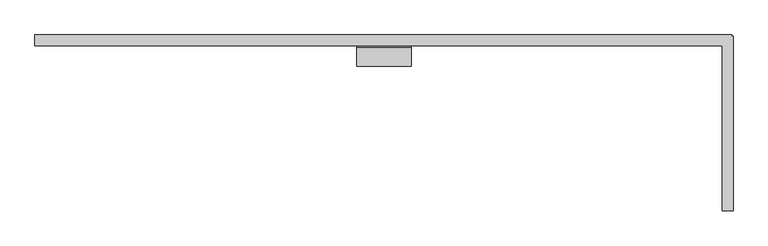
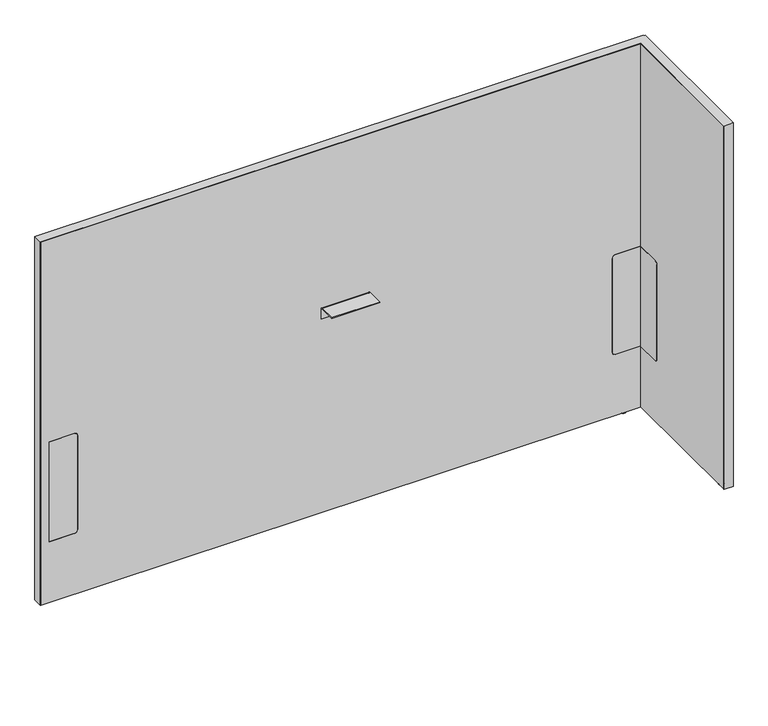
"""IFC4 building model written with IfcOpenShell, lengths in millimetres: furniture geometry, Steelcase - Answer Solution - Boundary Screen - L Return - Single Sided : 48H x 75W."""

from ifc_helpers import new_model, si_unit, point, frame, frame_2d, origin, place, context, project, spatial, polyline, circle_curve, ellipse_curve, trimmed, segment, composite_curve, outline, extrude, faceted_brep, source, transform, mapped, element, save
from ifc_brep_helpers import plane_surface, cylinder_surface, revolved_surface, advanced_brep


def furniture_c0c6b94c(model_context):
    return source(origin(), model_context, "Body", "SolidModel", [
        extrude(outline(composite_curve([segment(polyline([(-109.3501471, 549.6162029), (-29.0550397, 549.6162029), (-29.0550397, 213.7762137), (-109.3501471, 213.7762137)]), True, "CONTINUOUS"), segment(trimmed(circle_curve(frame_2d((-109.3501471, 223.9362137)), 10.16), [point((-109.3501471, 213.7762137))], [point((-119.5101471, 223.9362137))], False, "CARTESIAN"), True, "CONTINUOUS"), segment(polyline([(-119.5101471, 223.9362137), (-119.5101471, 539.4562029)]), True, "CONTINUOUS"), segment(trimmed(circle_curve(frame_2d((-109.3501471, 539.4562029)), 10.16), [point((-119.5101471, 539.4562029))], [point((-109.3501471, 549.6162029))], False, "CARTESIAN"), True, "CONTINUOUS")], self_intersect=False)), frame((2134.8191891, 0.0, 0.0), z_axis=(1.0, 0.0, 0.0), x_axis=(0.0, 1.0, 0.0)), (0.0, 0.0, 1.0), 0.6401544),
        advanced_brep(
        [(2149.6672074, -448.0136072, 0.0), (2156.6216144, -448.0136072, 0.0), (2142.7128003, -448.0136072, 0.0), (2158.0762685, -448.0136072, 1.2700001), (2141.2581463, -448.0136072, 1.2700001), (2158.0762685, -448.0136072, 2.9673238), (2141.2581463, -448.0136072, 2.9673238), (2159.0427877, -448.0136072, 2.9673238), (2140.291627, -448.0136072, 2.9673238), (2159.0427877, -448.0136072, 9.9059849), (2140.291627, -448.0136072, 9.9059849), (2149.6672074, -448.0136072, 9.9059849)],
        [
            (0, 1),
            (1, 2, circle_curve(frame((2149.6672074, -448.0136072, 0.0), z_axis=(0.0, 0.0, -1.0), x_axis=(1.0, 0.0, 0.0)), 6.9544071)),
            (2, 0),
            (2, 1, circle_curve(frame((2149.6672074, -448.0136072, 0.0), z_axis=(0.0, 0.0, -1.0), x_axis=(1.0, 0.0, 0.0)), 6.9544071)),
            (1, 3, circle_curve(frame((2156.7945484, -448.0136072, 1.2700001), z_axis=(0.0, -1.0, 0.0), x_axis=(0.0, 0.0, 1.0)), 1.2817201)),
            (3, 4, circle_curve(frame((2149.6672074, -448.0136072, 1.2700001), z_axis=(0.0, 0.0, -1.0), x_axis=(1.0, 0.0, 0.0)), 8.4090611)),
            (4, 2, circle_curve(frame((2142.5398663, -448.0136072, 1.2700001), z_axis=(0.0, -1.0, 0.0), x_axis=(0.0, 0.0, 1.0)), 1.2817201)),
            (4, 3, circle_curve(frame((2149.6672074, -448.0136072, 1.2700001), z_axis=(0.0, 0.0, -1.0), x_axis=(1.0, 0.0, 0.0)), 8.4090611)),
            (3, 5),
            (5, 6, circle_curve(frame((2149.6672074, -448.0136072, 2.9673238), z_axis=(0.0, 0.0, -1.0), x_axis=(1.0, 0.0, 0.0)), 8.4090611)),
            (6, 4),
            (6, 5, circle_curve(frame((2149.6672074, -448.0136072, 2.9673238), z_axis=(0.0, 0.0, -1.0), x_axis=(1.0, 0.0, 0.0)), 8.4090611)),
            (5, 7),
            (7, 8, circle_curve(frame((2149.6672074, -448.0136072, 2.9673238), z_axis=(0.0, 0.0, -1.0), x_axis=(1.0, 0.0, 0.0)), 9.3755804)),
            (8, 6),
            (8, 7, circle_curve(frame((2149.6672074, -448.0136072, 2.9673238), z_axis=(0.0, 0.0, -1.0), x_axis=(1.0, 0.0, 0.0)), 9.3755804)),
            (7, 9),
            (9, 10, circle_curve(frame((2149.6672074, -448.0136072, 9.9059849), z_axis=(0.0, 0.0, -1.0), x_axis=(1.0, 0.0, 0.0)), 9.3755804)),
            (10, 8),
            (10, 9, circle_curve(frame((2149.6672074, -448.0136072, 9.9059849), z_axis=(0.0, 0.0, -1.0), x_axis=(1.0, 0.0, 0.0)), 9.3755804)),
            (9, 11),
            (11, 10),
        ],
        [
            plane_surface(frame((2149.6672074, -448.0136072, 0.0), z_axis=(0.0, 0.0, -1.0), x_axis=(1.0, 0.0, 0.0))),
            revolved_surface(trimmed(ellipse_curve(frame((2156.7945484, -448.0136072, 1.2700001), z_axis=(0.0, 1.0, 0.0), x_axis=(0.0, 0.0, 1.0)), 1.2817201, 1.2817201), [point((2158.0762685, -448.0136072, 1.2700001))], [point((2156.6216144, -448.0136072, 0.0))], True, "CARTESIAN"), (2149.6672074, -448.0136072, 9.9059849), (0.0, 0.0, -1.0)),
            cylinder_surface(frame((2149.6672074, -448.0136072, 9.9059849), z_axis=(0.0, 0.0, -1.0), x_axis=(1.0, 0.0, 0.0)), 8.4090611),
            plane_surface(frame((2149.6672074, -448.0136072, 2.9673238), z_axis=(0.0, 0.0, -1.0), x_axis=(1.0, 0.0, 0.0))),
            cylinder_surface(frame((2149.6672074, -448.0136072, 9.9059849), z_axis=(0.0, 0.0, -1.0), x_axis=(1.0, 0.0, 0.0)), 9.3755804),
            plane_surface(frame((2149.6672074, -448.0136072, 9.9059849), z_axis=(0.0, 0.0, 1.0), x_axis=(1.0, 0.0, 0.0))),
        ],
        [
            (0, [[1, 2, 3]]),
            (0, [[-3, 4, -1]]),
            (1, [[-2, 5, 6, 7]]),
            (1, [[-4, -7, 8, -5]]),
            (2, [[-6, 9, 10, 11]]),
            (2, [[-8, -11, 12, -9]]),
            (3, [[-10, 13, 14, 15]]),
            (3, [[-12, -15, 16, -13]]),
            (4, [[-14, 17, 18, 19]]),
            (4, [[-16, -19, 20, -17]]),
            (5, [[-18, 21, 22]]),
            (5, [[-20, -22, -21]]),
        ],
    ),
        faceted_brep([(2161.2531179, 0.0, 1230.122), (2161.2531179, 0.0, 9.9059849), (2160.2621491, 0.0, 9.9059849), (2160.2621491, 0.0, 1229.142118), (230.8097779, 0.0, 1229.142118), (230.8097779, 0.0, 9.9059849), (229.8191891, 0.0, 9.9059849), (229.8191891, 0.0, 1230.122), (229.8191891, -29.6898332, 1230.122), (229.8191891, -29.6898332, 9.9059849), (230.8097779, -29.6898332, 9.9059849), (230.8097779, -29.6898332, 1229.142118), (2134.8191891, -29.6898332, 1229.142118), (2134.8191891, -29.6898332, 1230.122), (2160.2621491, -29.6898332, 1229.142118), (2160.2621491, -29.6898332, 9.9059849), (2161.2531179, -29.6898332, 9.9059849), (2161.2531179, -29.6898332, 1229.142118), (2161.2531179, -3.2625916, 1230.122), (2161.2531179, -3.2625916, 9.9059849), (2161.2531179, -4.252647, 9.9059849), (2161.2531179, -4.252647, 1229.142118), (2164.5152256, -3.2625916, 9.9059849), (2164.5152256, -4.252647, 9.9059849), (2160.2621491, -4.252647, 9.9059849), (2134.8191891, -4.252647, 9.9059849), (2134.8191891, -3.2625916, 9.9059849), (2160.2621491, -3.2625916, 9.9059849), (2134.8191891, -486.8898332, 1230.122), (2164.5152256, -486.8898332, 1230.122), (2164.5152256, -3.2625916, 1230.122), (2160.2621491, -3.2625916, 1229.142118), (2160.2621491, -4.252647, 1229.142118), (2134.8191891, -3.2625916, 1229.142118), (2134.8191891, -4.252647, 1229.142118), (2164.5152256, -4.252647, 1229.142118), (2164.5152256, -485.899196, 1229.142118), (2134.8191891, -485.899196, 1229.142118), (2134.8191891, -485.899196, 9.9059849), (2134.8191891, -486.8898332, 9.9059849), (2164.5152256, -486.8898332, 9.9059849), (2164.5152256, -485.899196, 9.9059849)], [[[0, 1, 2, 3, 4, 5, 6, 7]], [[8, 9, 10, 11, 12, 13]], [[14, 15, 16, 17]], [[1, 0, 18, 19]], [[17, 16, 20, 21]], [[2, 1, 19, 22, 23, 20, 16, 15, 24, 25, 26, 27]], [[7, 6, 9, 8]], [[0, 7, 8, 13, 28, 29, 30, 18]], [[3, 2, 27, 31]], [[15, 14, 32, 24]], [[4, 3, 31, 33, 34, 32, 14, 17, 21, 35, 36, 37, 12, 11]], [[5, 4, 11, 10]], [[6, 5, 10, 9]], [[26, 25, 34, 33]], [[37, 38, 39, 28, 13, 12]], [[29, 40, 41, 36, 35, 23, 22, 30]], [[27, 26, 33, 31]], [[30, 22, 19, 18]], [[34, 25, 24, 32]], [[23, 35, 21, 20]], [[38, 37, 36, 41]], [[39, 38, 41, 40]], [[28, 39, 40, 29]]]),
        extrude(outline(composite_curve([segment(polyline([(-86.8398151, 696.4680019), (-86.8398151, 698.5), (-34.9450855, 698.5)]), True, "CONTINUOUS"), segment(trimmed(circle_curve(frame_2d((-34.9450855, 693.2447477)), 5.2552523), [point((-34.9450855, 698.5))], [point((-29.6898332, 693.2447477))], False, "CARTESIAN"), True, "CONTINUOUS"), segment(polyline([(-29.6898332, 693.2447477), (-29.6898332, 660.4), (-31.7218162, 660.4), (-31.7218162, 693.0058743)]), True, "CONTINUOUS"), segment(trimmed(circle_curve(frame_2d((-35.1839438, 693.0058743)), 3.4621276), [point((-31.7218162, 693.0058743))], [point((-35.1839438, 696.4680019))], True, "CARTESIAN"), True, "CONTINUOUS"), segment(polyline([(-35.1839438, 696.4680019), (-86.8398151, 696.4680019)]), True, "CONTINUOUS")], self_intersect=False)), frame((1120.9685899, 0.0, 0.0), z_axis=(1.0, 0.0, 0.0), x_axis=(0.0, 1.0, 0.0)), (0.0, 0.0, 1.0), 152.4000969),
        advanced_brep(
        [(2087.3246853, -23.7588726, 9.9059849), (2087.3246853, -5.9309607, 9.9059849), (2087.3246853, -14.8449166, 9.9059849), (2087.3246853, -23.7588726, 2.9673238), (2087.3246853, -5.9309607, 2.9673238), (2087.3246853, -22.7915354, 2.9673238), (2087.3246853, -6.8982978, 2.9673238), (2087.3246853, -22.7915354, 1.6569081), (2087.3246853, -6.8982978, 1.6569081), (2087.3246853, -21.1346274, 0.0), (2087.3246853, -8.5552059, 0.0), (2087.3246853, -14.8449166, 0.0)],
        [
            (0, 1, circle_curve(frame((2087.3246853, -14.8449166, 9.9059849), z_axis=(0.0, 0.0, 1.0), x_axis=(0.0, 1.0, 0.0)), 8.913956)),
            (1, 2),
            (2, 0),
            (1, 0, circle_curve(frame((2087.3246853, -14.8449166, 9.9059849), z_axis=(0.0, 0.0, 1.0), x_axis=(0.0, 1.0, 0.0)), 8.913956)),
            (3, 4, circle_curve(frame((2087.3246853, -14.8449166, 2.9673238), z_axis=(0.0, 0.0, 1.0), x_axis=(0.0, 1.0, 0.0)), 8.913956)),
            (4, 1),
            (0, 3),
            (4, 3, circle_curve(frame((2087.3246853, -14.8449166, 2.9673238), z_axis=(0.0, 0.0, 1.0), x_axis=(0.0, 1.0, 0.0)), 8.913956)),
            (5, 6, circle_curve(frame((2087.3246853, -14.8449166, 2.9673238), z_axis=(0.0, 0.0, 1.0), x_axis=(0.0, 1.0, 0.0)), 7.9466188)),
            (6, 4),
            (3, 5),
            (6, 5, circle_curve(frame((2087.3246853, -14.8449166, 2.9673238), z_axis=(0.0, 0.0, 1.0), x_axis=(0.0, 1.0, 0.0)), 7.9466188)),
            (7, 8, circle_curve(frame((2087.3246853, -14.8449166, 1.6569081), z_axis=(0.0, 0.0, 1.0), x_axis=(0.0, 1.0, 0.0)), 7.9466188)),
            (8, 6),
            (5, 7),
            (8, 7, circle_curve(frame((2087.3246853, -14.8449166, 1.6569081), z_axis=(0.0, 0.0, 1.0), x_axis=(0.0, 1.0, 0.0)), 7.9466188)),
            (9, 10, circle_curve(frame((2087.3246853, -14.8449166, 0.0), z_axis=(0.0, 0.0, 1.0), x_axis=(0.0, 1.0, 0.0)), 6.2897107)),
            (10, 8, circle_curve(frame((2087.3246853, -8.5552059, 1.6569081), z_axis=(1.0, 0.0, 0.0), x_axis=(0.0, 1.0, 0.0)), 1.6569081)),
            (7, 9, circle_curve(frame((2087.3246853, -21.1346274, 1.6569081), z_axis=(1.0, 0.0, 0.0), x_axis=(0.0, -1.0, 0.0)), 1.6569081)),
            (10, 9, circle_curve(frame((2087.3246853, -14.8449166, 0.0), z_axis=(0.0, 0.0, 1.0), x_axis=(0.0, 1.0, 0.0)), 6.2897107)),
            (11, 10),
            (9, 11),
        ],
        [
            plane_surface(frame((2087.3246853, -14.8449166, 9.9059849), z_axis=(0.0, 0.0, 1.0), x_axis=(0.0, 1.0, 0.0))),
            cylinder_surface(frame((2087.3246853, -14.8449166, 9.9059849), z_axis=(0.0, 0.0, -1.0), x_axis=(0.0, 1.0, 0.0)), 8.913956),
            plane_surface(frame((2087.3246853, -14.8449166, 2.9673238), z_axis=(0.0, 0.0, -1.0), x_axis=(0.0, 1.0, 0.0))),
            cylinder_surface(frame((2087.3246853, -14.8449166, 9.9059849), z_axis=(0.0, 0.0, -1.0), x_axis=(0.0, 1.0, 0.0)), 7.9466188),
            revolved_surface(trimmed(ellipse_curve(frame((2087.3246853, -8.5552059, 1.6569081), z_axis=(-1.0, 0.0, 0.0), x_axis=(0.0, 1.0, 0.0)), 1.6569081, 1.6569081), [point((2087.3246853, -6.8982978, 1.6569081))], [point((2087.3246853, -8.5552059, 0.0))], True, "CARTESIAN"), (2087.3246853, -14.8449166, 9.9059849), (0.0, 0.0, -1.0)),
            plane_surface(frame((2087.3246853, -14.8449166, 0.0), z_axis=(0.0, 0.0, -1.0), x_axis=(0.0, 1.0, 0.0))),
        ],
        [
            (0, [[1, 2, 3]]),
            (0, [[4, -3, -2]]),
            (1, [[5, 6, -1, 7]]),
            (1, [[8, -7, -4, -6]]),
            (2, [[9, 10, -5, 11]]),
            (2, [[12, -11, -8, -10]]),
            (3, [[13, 14, -9, 15]]),
            (3, [[16, -15, -12, -14]]),
            (4, [[17, 18, -13, 19]]),
            (4, [[20, -19, -16, -18]]),
            (5, [[21, -17, 22]]),
            (5, [[-22, -20, -21]]),
        ],
    ),
        advanced_brep(
        [(230.8097779, 0.0, 1229.142118), (2160.2621491, 0.0, 1229.142118), (2160.2621491, 0.0, 9.9059849), (230.8097779, 0.0, 9.9059849), (347.9483813, -29.0550397, 539.4562029), (337.7883813, -29.0550397, 549.6162029), (258.1344836, -29.0550397, 549.6162029), (258.1344836, -29.0550397, 213.7762137), (337.7883813, -29.0550397, 213.7762137), (347.9483813, -29.0550397, 223.9362137), (2135.4593435, -29.0550397, 213.7762137), (2135.4593435, -29.0550397, 549.6162029), (2054.9109268, -29.0550397, 549.6162029), (2044.7509268, -29.0550397, 539.4562029), (2044.7509268, -29.0550397, 223.9362137), (2054.9109268, -29.0550397, 213.7762137), (230.8097779, -29.6898332, 1229.142118), (230.8097779, -29.6898332, 9.9059849), (2134.8191891, -29.6898332, 9.9059849), (2134.8191891, -29.6898332, 213.7762137), (2054.9109268, -29.6898332, 213.7762137), (2044.7509268, -29.6898332, 223.9362137), (2044.7509268, -29.6898332, 539.4562029), (2054.9109268, -29.6898332, 549.6162029), (2134.8191891, -29.6898332, 549.6162029), (2134.8191891, -29.6898332, 1229.142118), (337.7883813, -29.6898332, 549.6162029), (347.9483813, -29.6898332, 539.4562029), (347.9483813, -29.6898332, 223.9362137), (337.7883813, -29.6898332, 213.7762137), (258.1344836, -29.6898332, 213.7762137), (258.1344836, -29.6898332, 549.6162029), (2160.2621491, -4.252647, 9.9059849), (2164.5152256, -4.252647, 9.9059849), (2164.5152256, -485.899196, 9.9059849), (2134.8191891, -485.899196, 9.9059849), (2160.2621491, -4.252647, 1229.142118), (2134.8191891, -485.899196, 1229.142118), (2164.5152256, -485.899196, 1229.142118), (2164.5152256, -4.252647, 1229.142118), (2135.4593435, -109.3501471, 549.6162029), (2134.8191891, -109.3501471, 549.6162029), (2135.4593435, -109.3501471, 213.7762137), (2135.4593435, -119.5101471, 223.9362137), (2135.4593435, -119.5101471, 539.4562029), (2134.8191891, -109.3501471, 213.7762137), (2134.8191891, -119.5101471, 539.4562029), (2134.8191891, -119.5101471, 223.9362137)],
        [
            (0, 1),
            (1, 2),
            (2, 3),
            (3, 0),
            (4, 5, circle_curve(frame((337.7883813, -29.0550397, 539.4562029), z_axis=(0.0, -1.0, 0.0), x_axis=(0.0, 0.0, 1.0)), 10.16)),
            (5, 6),
            (6, 7),
            (7, 8),
            (8, 9, circle_curve(frame((337.7883813, -29.0550397, 223.9362137), z_axis=(0.0, -1.0, 0.0), x_axis=(0.0, 0.0, 1.0)), 10.16)),
            (9, 4),
            (10, 11),
            (11, 12),
            (12, 13, circle_curve(frame((2054.9109268, -29.0550397, 539.4562029), z_axis=(0.0, -1.0, 0.0), x_axis=(0.0, 0.0, 1.0)), 10.16)),
            (13, 14),
            (14, 15, circle_curve(frame((2054.9109268, -29.0550397, 223.9362137), z_axis=(0.0, -1.0, 0.0), x_axis=(0.0, 0.0, 1.0)), 10.16)),
            (15, 10),
            (16, 17),
            (17, 18),
            (18, 19),
            (19, 20),
            (20, 21, circle_curve(frame((2054.9109268, -29.6898332, 223.9362137), z_axis=(0.0, 1.0, 0.0), x_axis=(0.0, 0.0, 1.0)), 10.16)),
            (21, 22),
            (22, 23, circle_curve(frame((2054.9109268, -29.6898332, 539.4562029), z_axis=(0.0, 1.0, 0.0), x_axis=(0.0, 0.0, 1.0)), 10.16)),
            (23, 24),
            (24, 25),
            (25, 16),
            (26, 27, circle_curve(frame((337.7883813, -29.6898332, 539.4562029), z_axis=(0.0, 1.0, 0.0), x_axis=(0.0, 0.0, 1.0)), 10.16)),
            (27, 28),
            (28, 29, circle_curve(frame((337.7883813, -29.6898332, 223.9362137), z_axis=(0.0, 1.0, 0.0), x_axis=(0.0, 0.0, 1.0)), 10.16)),
            (29, 30),
            (30, 31),
            (31, 26),
            (16, 0),
            (3, 17),
            (2, 32),
            (32, 33),
            (33, 34),
            (34, 35),
            (35, 18),
            (1, 36),
            (36, 32),
            (25, 37),
            (37, 38),
            (38, 39),
            (39, 36),
            (26, 5),
            (4, 27),
            (9, 28),
            (8, 29),
            (7, 30),
            (6, 31),
            (11, 40),
            (40, 41),
            (41, 24),
            (23, 12),
            (42, 43, circle_curve(frame((2135.4593435, -109.3501471, 223.9362137), z_axis=(-1.0, 0.0, 0.0), x_axis=(0.0, 1.0, 0.0)), 10.16)),
            (43, 44),
            (44, 40, circle_curve(frame((2135.4593435, -109.3501471, 539.4562029), z_axis=(-1.0, 0.0, 0.0), x_axis=(0.0, 1.0, 0.0)), 10.16)),
            (10, 42),
            (15, 20),
            (19, 45),
            (45, 42),
            (14, 21),
            (13, 22),
            (35, 37),
            (41, 46, circle_curve(frame((2134.8191891, -109.3501471, 539.4562029), z_axis=(1.0, 0.0, 0.0), x_axis=(0.0, 1.0, 0.0)), 10.16)),
            (46, 47),
            (47, 45, circle_curve(frame((2134.8191891, -109.3501471, 223.9362137), z_axis=(1.0, 0.0, 0.0), x_axis=(0.0, 1.0, 0.0)), 10.16)),
            (38, 34),
            (33, 39),
            (44, 46),
            (43, 47),
        ],
        [
            plane_surface(frame((347.9483813, 0.0, 549.6162029), z_axis=(0.0, 1.0, 0.0), x_axis=(0.0, 0.0, -1.0))),
            plane_surface(frame((347.9483813, -29.0550397, 549.6162029), z_axis=(0.0, -1.0, 0.0), x_axis=(0.0, 0.0, 1.0))),
            plane_surface(frame((2160.2621491, -29.6898332, 1229.142118), z_axis=(0.0, -1.0, 0.0), x_axis=(-1.0, 0.0, 0.0))),
            plane_surface(frame((230.8097779, 0.0, 9.9059849), z_axis=(-1.0, 0.0, 0.0), x_axis=(0.0, -1.0, 0.0))),
            plane_surface(frame((2160.2621491, 0.0, 9.9059849), z_axis=(0.0, 0.0, -1.0), x_axis=(0.0, -1.0, 0.0))),
            plane_surface(frame((2160.2621491, 0.0, 1229.142118), z_axis=(1.0, 0.0, 0.0), x_axis=(0.0, -1.0, 0.0))),
            plane_surface(frame((230.8097779, 0.0, 1229.142118), z_axis=(0.0, 0.0, 1.0), x_axis=(0.0, -1.0, 0.0))),
            revolved_surface(polyline([(337.7883813, -29.6898332, 549.6162029), (337.7883813, -29.0550397, 549.6162029)]), (337.7883813, -29.6898332, 539.4562029), (0.0, -1.0, 0.0)),
            plane_surface(frame((347.9483813, 0.0, 223.9362137), z_axis=(-1.0, 0.0, 0.0), x_axis=(0.0, -1.0, 0.0))),
            revolved_surface(polyline([(337.7883813, -29.6898332, 234.0962137), (337.7883813, -29.0550397, 234.0962137)]), (337.7883813, -29.6898332, 223.9362137), (0.0, -1.0, 0.0)),
            plane_surface(frame((258.1344836, 0.0, 213.7762137), z_axis=(0.0, 0.0, 1.0), x_axis=(0.0, -1.0, 0.0))),
            plane_surface(frame((258.1344836, 0.0, 549.6162029), z_axis=(1.0, 0.0, 0.0), x_axis=(0.0, -1.0, 0.0))),
            plane_surface(frame((337.7883813, 0.0, 549.6162029), z_axis=(0.0, 0.0, -1.0), x_axis=(0.0, -1.0, 0.0))),
            plane_surface(frame((2135.4593435, 0.0, 549.6162029), z_axis=(0.0, 0.0, -1.0), x_axis=(0.0, -1.0, 0.0))),
            plane_surface(frame((2135.4593435, 0.0, 213.7762137), z_axis=(-1.0, 0.0, 0.0), x_axis=(0.0, -1.0, 0.0))),
            plane_surface(frame((2054.9109268, 0.0, 213.7762137), z_axis=(0.0, 0.0, 1.0), x_axis=(0.0, -1.0, 0.0))),
            revolved_surface(polyline([(2054.9109268, -29.6898332, 234.0962137), (2054.9109268, -29.0550397, 234.0962137)]), (2054.9109268, -29.6898332, 223.9362137), (0.0, -1.0, 0.0)),
            plane_surface(frame((2044.7509268, 0.0, 539.4562029), z_axis=(1.0, 0.0, 0.0), x_axis=(0.0, -1.0, 0.0))),
            revolved_surface(polyline([(2054.9109268, -29.6898332, 549.6162029), (2054.9109268, -29.0550397, 549.6162029)]), (2054.9109268, -29.6898332, 539.4562029), (0.0, -1.0, 0.0)),
            plane_surface(frame((2134.8191891, -485.899196, 1229.142118), z_axis=(-1.0, 0.0, 0.0), x_axis=(0.0, 0.0, 1.0))),
            plane_surface(frame((2164.5152256, -485.899196, 1229.142118), z_axis=(1.0, 0.0, 0.0), x_axis=(0.0, 0.0, -1.0))),
            plane_surface(frame((2164.5152256, -4.252647, 9.9059849), z_axis=(0.0, 1.0, 0.0), x_axis=(-1.0, 0.0, 0.0))),
            plane_surface(frame((2164.5152256, -485.899196, 1229.142118), z_axis=(0.0, -1.0, 0.0), x_axis=(-1.0, 0.0, 0.0))),
            revolved_surface(polyline([(2134.8191890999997, -99.1901471, 539.4562029), (2135.4593434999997, -99.1901471, 539.4562029)]), (-340.6902705, -109.3501471, 539.4562029), (-1.0, 0.0, 0.0)),
            plane_surface(frame((2164.5152256, -119.5101471, 223.9362137), z_axis=(0.0, 1.0, 0.0), x_axis=(-1.0, 0.0, 0.0))),
            revolved_surface(polyline([(2134.8191890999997, -99.1901471, 223.9362137), (2135.4593434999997, -99.1901471, 223.9362137)]), (-340.6902705, -109.3501471, 223.9362137), (-1.0, 0.0, 0.0)),
        ],
        [
            (0, [[1, 2, 3, 4]]),
            (1, [[5, 6, 7, 8, 9, 10]]),
            (1, [[11, 12, 13, 14, 15, 16]]),
            (2, [[17, 18, 19, 20, 21, 22, 23, 24, 25, 26], [27, 28, 29, 30, 31, 32]]),
            (3, [[-17, 33, -4, 34]]),
            (4, [[-3, 35, 36, 37, 38, 39, -18, -34]]),
            (5, [[-2, 40, 41, -35]]),
            (6, [[-1, -33, -26, 42, 43, 44, 45, -40]]),
            (7, [[-27, 46, -5, 47]]),
            (8, [[-28, -47, -10, 48]]),
            (9, [[-29, -48, -9, 49]]),
            (10, [[-30, -49, -8, 50]]),
            (11, [[-31, -50, -7, 51]]),
            (12, [[-32, -51, -6, -46]]),
            (13, [[52, 53, 54, -24, 55, -12]]),
            (14, [[56, 57, 58, -52, -11, 59]]),
            (15, [[-59, -16, 60, -20, 61, 62]]),
            (16, [[-21, -60, -15, 63]]),
            (17, [[-22, -63, -14, 64]]),
            (18, [[-23, -64, -13, -55]]),
            (19, [[65, -42, -25, -54, 66, 67, 68, -61, -19, -39]]),
            (20, [[69, -37, 70, -44]]),
            (21, [[-70, -36, -41, -45]]),
            (22, [[-65, -38, -69, -43]]),
            (23, [[-66, -53, -58, 71]]),
            (24, [[-67, -71, -57, 72]]),
            (25, [[-68, -72, -56, -62]]),
        ],
    ),
        extrude(outline(composite_curve([segment(polyline([(549.6162029, 337.7883813), (549.6162029, 258.1344836), (213.7762137, 258.1344836), (213.7762137, 337.7883813)]), True, "CONTINUOUS"), segment(trimmed(circle_curve(frame_2d((223.9362137, 337.7883813)), 10.16), [point((213.7762137, 337.7883813))], [point((223.9362137, 347.9483813))], False, "CARTESIAN"), True, "CONTINUOUS"), segment(polyline([(223.9362137, 347.9483813), (539.4562029, 347.9483813)]), True, "CONTINUOUS"), segment(trimmed(circle_curve(frame_2d((539.4562029, 337.7883813)), 10.16), [point((539.4562029, 347.9483813))], [point((549.6162029, 337.7883813))], False, "CARTESIAN"), True, "CONTINUOUS")], self_intersect=False)), frame((0.0, -29.6898332, 0.0), z_axis=(0.0, 1.0, 0.0), x_axis=(0.0, 0.0, 1.0)), (0.0, 0.0, 1.0), 0.6347935),
        extrude(outline(composite_curve([segment(trimmed(circle_curve(frame_2d((539.4562029, 2054.9109268)), 10.16), [point((549.6162029, 2054.9109268))], [point((539.4562029, 2044.7509268))], False, "CARTESIAN"), True, "CONTINUOUS"), segment(polyline([(539.4562029, 2044.7509268), (223.9362137, 2044.7509268)]), True, "CONTINUOUS"), segment(trimmed(circle_curve(frame_2d((223.9362137, 2054.9109268)), 10.16), [point((223.9362137, 2044.7509268))], [point((213.7762137, 2054.9109268))], False, "CARTESIAN"), True, "CONTINUOUS"), segment(polyline([(213.7762137, 2054.9109268), (213.7762137, 2134.8191891), (549.6162029, 2134.8191891), (549.6162029, 2054.9109268)]), True, "CONTINUOUS")], self_intersect=False)), frame((0.0, -29.6898332, 0.0), z_axis=(0.0, 1.0, 0.0), x_axis=(0.0, 0.0, 1.0)), (0.0, 0.0, 1.0), 0.6347935),
    ])


if __name__ == "__main__":
    model = new_model("IFC4")
    model_context = context("Model", 3, world=origin())
    ifc_project = project(units=[si_unit("LENGTHUNIT", "METRE", prefix="MILLI")], contexts=[model_context])
    site = spatial("IfcSite", under=ifc_project)
    building = spatial("IfcBuilding", under=site)
    placement = place(None, origin())
    furniture_shape = furniture_c0c6b94c(model_context)
    element("IfcFurniture", 1, ObjectType="Steelcase - Answer Solution - Boundary Screen - L Return - Single Sided : 48H x 75W", at=placement, inside=building, context=model_context, shape_type="MappedRepresentation", body=[
        mapped(furniture_shape, transform((0.0, 0.0, 0.0), x_axis=(1.0, 0.0, 0.0), y_axis=(0.0, 1.0, 0.0), z_axis=(0.0, 0.0, 1.0))),
    ])
    save(model, "model.ifc")
